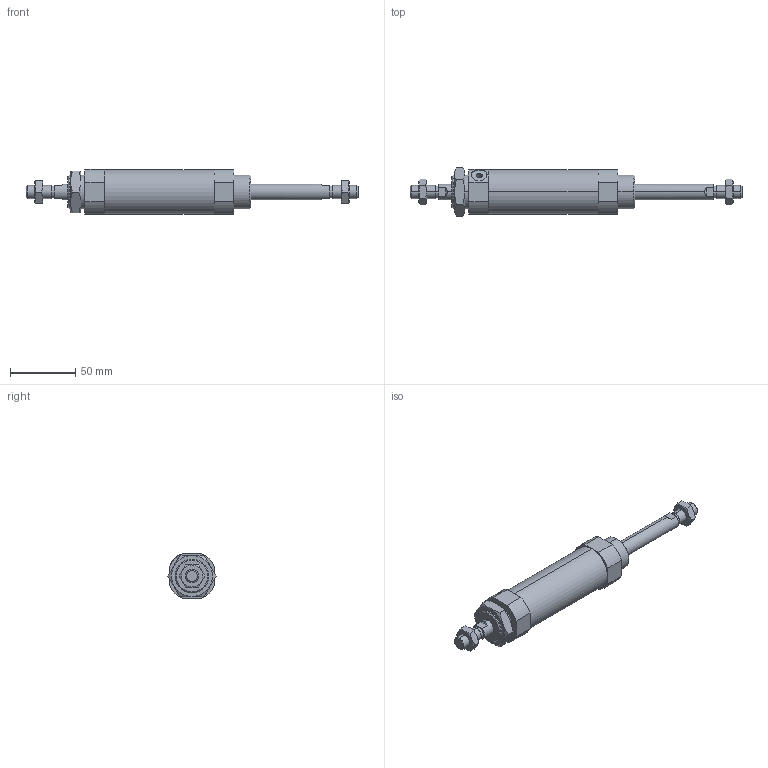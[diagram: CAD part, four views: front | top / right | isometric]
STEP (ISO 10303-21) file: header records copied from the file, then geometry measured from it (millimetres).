
FILE_DESCRIPTION (( 'STEP AP203' ), '1' );
FILE_NAME ('CSM2B32-50-P.STEP', '2020-07-20T16:45:54', ( '' ), ( '' ), 'SwSTEP 2.0', 'SolidWorks 2019', '' );
FILE_SCHEMA (( 'CONFIG_CONTROL_DESIGN' ));
Length unit declared in the file: millimetre
Products named in the file (1): CSM2B32-50-P
Bounding box: 254 x 36.95 x 34.5 mm (x, y, z)
Volume: 101299.9 mm3; surface area: 42307 mm2
Topology: 5 solids, 5 shells, 149 faces, 346 edges, 217 vertices
Faces by surface type: plane 57, cylinder 48, cone 44
Entity records: 5397 total; most frequent: CARTESIAN_POINT 1949, DIRECTION 714, ORIENTED_EDGE 680, EDGE_CURVE 340, AXIS2_PLACEMENT_3D 282, VERTEX_POINT 217, EDGE_LOOP 173, LINE 150
